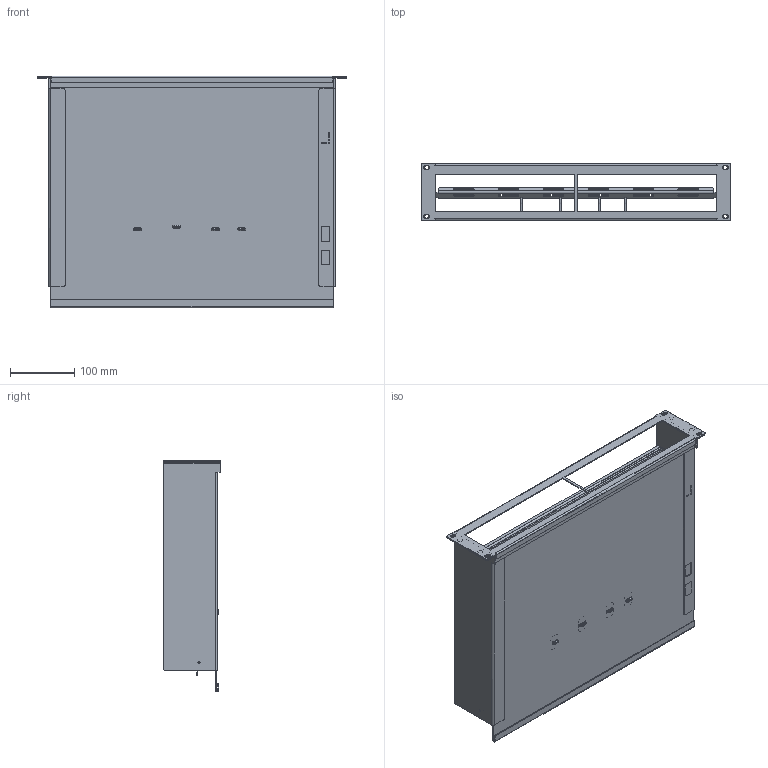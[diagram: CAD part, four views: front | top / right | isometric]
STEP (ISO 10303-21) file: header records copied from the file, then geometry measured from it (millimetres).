
FILE_DESCRIPTION((''),'2;1');
FILE_NAME('RSHA-SONOS-AMP2_ASM','2019-01-28T',('tpesso1a'),('Middle Atlantic Products'),'PRO/ENGINEER BY PARAMETRIC TECHNOLOGY CORPORATION, 2014310','PRO/ENGINEER BY PARAMETRIC TECHNOLOGY CORPORATION, 2014310','');
FILE_SCHEMA(('CONFIG_CONTROL_DESIGN'));
Length unit declared in the file: inch
Products named in the file (10): PRSHPLE2U2; PRSHPRE2U2; PRSHPB14; PRSHAF2U; PRSHLH1; 800-00183; PRSH4XCBK; 500-00435_17; ARSH4XCBK_ASM; RSHA-SONOS-AMP2_ASM
Assembly tree (13 placements, depth 3):
  RSHA-SONOS-AMP2_ASM
    PRSHPLE2U2
    PRSHPRE2U2
    PRSHPB14
    PRSHAF2U
    PRSHLH1
    800-00183  x4
    ARSH4XCBK_ASM  x2
      PRSH4XCBK
      500-00435_17
Bounding box: 482.6 x 88.65 x 361.15 mm (x, y, z)
Volume: 559152.8 mm3; surface area: 680183.9 mm2
Topology: 18 solids, 18 shells, 1628 faces, 3920 edges, 2336 vertices
Faces by surface type: cylinder 703, plane 441, torus 360, bspline 100, sphere 16, cone 8
Entity records: 22866 total; most frequent: CARTESIAN_POINT 5340, DIRECTION 3794, ORIENTED_EDGE 3512, EDGE_CURVE 1756, AXIS2_PLACEMENT_3D 1415, VERTEX_POINT 1070, VECTOR 964, LINE 964
